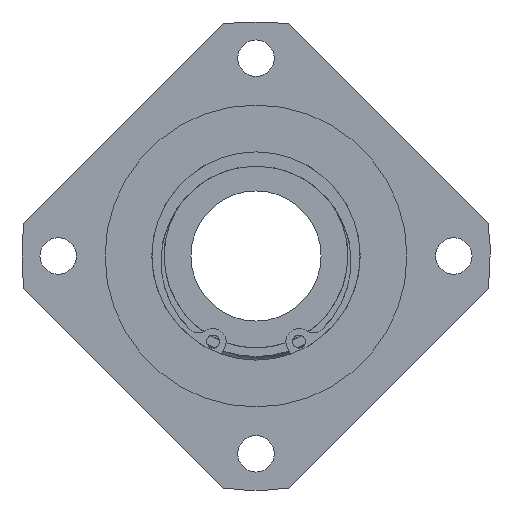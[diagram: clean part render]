
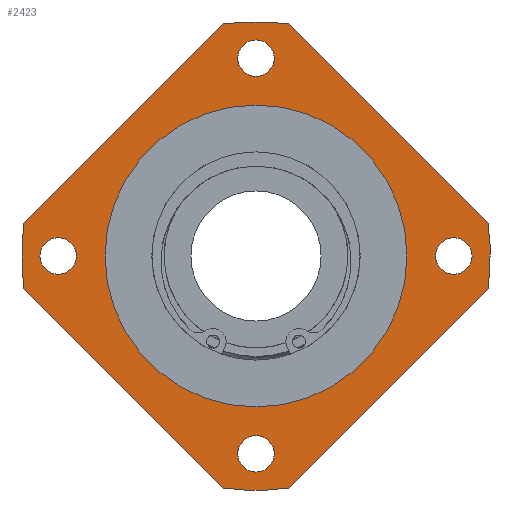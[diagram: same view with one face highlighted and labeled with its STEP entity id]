
A CAD part, left-side view. The second image highlights one B-rep face of the part: STEP entity #2423.
In plain terms, the highlighted planar face has unit normal (-1, 0, 0).
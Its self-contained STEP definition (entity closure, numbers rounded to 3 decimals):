
#2006=CARTESIAN_POINT('',(11.0,38.0,-3.5));
#2007=VERTEX_POINT('',#2006);
#2008=CARTESIAN_POINT('',(11.,38.0,0.));
#2009=DIRECTION('',(1.0,0.0,0.0));
#2010=DIRECTION('',(0.0,0.0,-1.0));
#2011=AXIS2_PLACEMENT_3D('',#2008,#2009,#2010);
#2012=CIRCLE('',#2011,3.5);
#2013=EDGE_CURVE('',#2007,#2007,#2012,.T.);
#2034=CARTESIAN_POINT('',(11.0,-3.5,-38.0));
#2035=VERTEX_POINT('',#2034);
#2036=CARTESIAN_POINT('',(11.,0.,-38.0));
#2037=DIRECTION('',(1.0,0.0,0.0));
#2038=DIRECTION('',(0.0,-1.0,0.0));
#2039=AXIS2_PLACEMENT_3D('',#2036,#2037,#2038);
#2040=CIRCLE('',#2039,3.5);
#2041=EDGE_CURVE('',#2035,#2035,#2040,.T.);
#2062=CARTESIAN_POINT('',(11.0,-38.0,3.5));
#2063=VERTEX_POINT('',#2062);
#2064=CARTESIAN_POINT('',(11.,-38.0,0.));
#2065=DIRECTION('',(1.0,0.0,0.0));
#2066=DIRECTION('',(0.0,0.0,1.0));
#2067=AXIS2_PLACEMENT_3D('',#2064,#2065,#2066);
#2068=CIRCLE('',#2067,3.5);
#2069=EDGE_CURVE('',#2063,#2063,#2068,.T.);
#2090=CARTESIAN_POINT('',(11.0,3.5,38.0));
#2091=VERTEX_POINT('',#2090);
#2092=CARTESIAN_POINT('',(11.,0.,38.0));
#2093=DIRECTION('',(1.0,0.0,0.0));
#2094=DIRECTION('',(0.0,1.0,0.0));
#2095=AXIS2_PLACEMENT_3D('',#2092,#2093,#2094);
#2096=CIRCLE('',#2095,3.5);
#2097=EDGE_CURVE('',#2091,#2091,#2096,.T.);
#2117=CARTESIAN_POINT('',(11.0,-6.364,44.548));
#2118=VERTEX_POINT('',#2117);
#2125=CARTESIAN_POINT('',(11.0,-44.548,6.364));
#2126=VERTEX_POINT('',#2125);
#2127=CARTESIAN_POINT('',(11.0,-44.548,6.364));
#2128=DIRECTION('',(0.0,0.707,0.707));
#2129=VECTOR('',#2128,54.);
#2130=LINE('',#2127,#2129);
#2131=EDGE_CURVE('',#2126,#2118,#2130,.T.);
#2157=CARTESIAN_POINT('',(11.0,6.364,-44.548));
#2158=VERTEX_POINT('',#2157);
#2165=CARTESIAN_POINT('',(11.0,44.548,-6.364));
#2166=VERTEX_POINT('',#2165);
#2167=CARTESIAN_POINT('',(11.0,44.548,-6.364));
#2168=DIRECTION('',(0.0,-0.707,-0.707));
#2169=VECTOR('',#2168,54.);
#2170=LINE('',#2167,#2169);
#2171=EDGE_CURVE('',#2166,#2158,#2170,.T.);
#2197=CARTESIAN_POINT('',(11.0,-44.548,-6.364));
#2198=VERTEX_POINT('',#2197);
#2205=CARTESIAN_POINT('',(11.0,-6.364,-44.548));
#2206=VERTEX_POINT('',#2205);
#2207=CARTESIAN_POINT('',(11.0,-6.364,-44.548));
#2208=DIRECTION('',(0.0,-0.707,0.707));
#2209=VECTOR('',#2208,54.);
#2210=LINE('',#2207,#2209);
#2211=EDGE_CURVE('',#2206,#2198,#2210,.T.);
#2237=CARTESIAN_POINT('',(11.0,44.548,6.364));
#2238=VERTEX_POINT('',#2237);
#2245=CARTESIAN_POINT('',(11.0,6.364,44.548));
#2246=VERTEX_POINT('',#2245);
#2247=CARTESIAN_POINT('',(11.0,6.364,44.548));
#2248=DIRECTION('',(0.0,0.707,-0.707));
#2249=VECTOR('',#2248,54.);
#2250=LINE('',#2247,#2249);
#2251=EDGE_CURVE('',#2246,#2238,#2250,.T.);
#2331=CARTESIAN_POINT('',(11.,0.0,0.0));
#2332=DIRECTION('',(-1.0,0.0,0.0));
#2333=DIRECTION('',(0.0,0.0,1.0));
#2334=AXIS2_PLACEMENT_3D('',#2331,#2332,#2333);
#2335=CIRCLE('',#2334,45.0);
#2336=EDGE_CURVE('',#2238,#2166,#2335,.T.);
#2351=CARTESIAN_POINT('',(11.,0.0,0.0));
#2352=DIRECTION('',(-1.0,0.0,0.0));
#2353=DIRECTION('',(0.0,0.0,1.0));
#2354=AXIS2_PLACEMENT_3D('',#2351,#2352,#2353);
#2355=CIRCLE('',#2354,45.0);
#2356=EDGE_CURVE('',#2158,#2206,#2355,.T.);
#2367=CARTESIAN_POINT('',(11.,0.0,0.0));
#2368=DIRECTION('',(-1.0,0.0,0.0));
#2369=DIRECTION('',(0.0,0.0,1.0));
#2370=AXIS2_PLACEMENT_3D('',#2367,#2368,#2369);
#2371=CIRCLE('',#2370,45.0);
#2372=EDGE_CURVE('',#2198,#2126,#2371,.T.);
#2379=CARTESIAN_POINT('',(11.,0.0,37.0));
#2380=DIRECTION('',(-1.0,0.0,0.0));
#2381=DIRECTION('',(0.0,0.0,1.0));
#2382=AXIS2_PLACEMENT_3D('',#2379,#2380,#2381);
#2383=PLANE('',#2382);
#2384=ORIENTED_EDGE('',*,*,#2131,.T.);
#2385=CARTESIAN_POINT('',(11.,0.0,0.0));
#2386=DIRECTION('',(-1.0,0.0,0.0));
#2387=DIRECTION('',(0.0,0.0,1.0));
#2388=AXIS2_PLACEMENT_3D('',#2385,#2386,#2387);
#2389=CIRCLE('',#2388,45.0);
#2390=EDGE_CURVE('',#2118,#2246,#2389,.T.);
#2391=ORIENTED_EDGE('',*,*,#2390,.T.);
#2392=ORIENTED_EDGE('',*,*,#2251,.T.);
#2393=ORIENTED_EDGE('',*,*,#2336,.T.);
#2394=ORIENTED_EDGE('',*,*,#2171,.T.);
#2395=ORIENTED_EDGE('',*,*,#2356,.T.);
#2396=ORIENTED_EDGE('',*,*,#2211,.T.);
#2397=ORIENTED_EDGE('',*,*,#2372,.T.);
#2398=EDGE_LOOP('',(#2384,#2391,#2392,#2393,#2394,#2395,#2396,#2397));
#2399=FACE_OUTER_BOUND('',#2398,.T.);
#2400=ORIENTED_EDGE('',*,*,#2013,.T.);
#2401=EDGE_LOOP('',(#2400));
#2402=FACE_BOUND('',#2401,.T.);
#2403=ORIENTED_EDGE('',*,*,#2041,.T.);
#2404=EDGE_LOOP('',(#2403));
#2405=FACE_BOUND('',#2404,.T.);
#2406=ORIENTED_EDGE('',*,*,#2069,.T.);
#2407=EDGE_LOOP('',(#2406));
#2408=FACE_BOUND('',#2407,.T.);
#2409=ORIENTED_EDGE('',*,*,#2097,.T.);
#2410=EDGE_LOOP('',(#2409));
#2411=FACE_BOUND('',#2410,.T.);
#2412=CARTESIAN_POINT('',(11.0,0.0,29.));
#2413=VERTEX_POINT('',#2412);
#2414=CARTESIAN_POINT('',(11.0,0.0,0.0));
#2415=DIRECTION('',(-1.0,0.0,0.0));
#2416=DIRECTION('',(0.0,0.0,1.0));
#2417=AXIS2_PLACEMENT_3D('',#2414,#2415,#2416);
#2418=CIRCLE('',#2417,29.);
#2419=EDGE_CURVE('',#2413,#2413,#2418,.T.);
#2420=ORIENTED_EDGE('',*,*,#2419,.F.);
#2421=EDGE_LOOP('',(#2420));
#2422=FACE_BOUND('',#2421,.T.);
#2423=ADVANCED_FACE('',(#2399,#2402,#2405,#2408,#2411,#2422),#2383,.T.);
